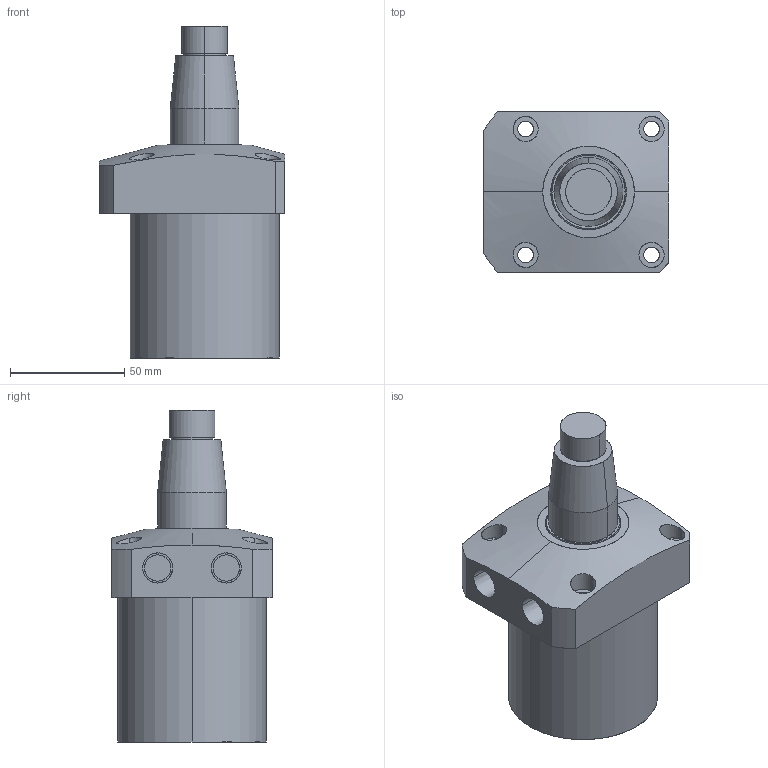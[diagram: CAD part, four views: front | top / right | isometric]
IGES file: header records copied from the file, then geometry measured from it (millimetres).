
Start section: SolidWorks IGES file using analytic representation for surfaces
Global section: file name: E:\karthik\CLASYS\Pneumatic Swing cylinders\Top mount cyl 0311\65\0311-0651.IGS; native system: SolidWorks 2010; preprocessor: SolidWorks 2010; author: karthik; date: 130916.100752; units: millimetre
Bounding box: 81 x 70 x 145 mm (x, y, z)
Surface area: 41842.1 mm2 (no closed solid volume)
Topology: 0 solids, 0 shells, 89 faces, 2492 edges, 2492 vertices
Faces by surface type: revolution 62, bspline 27
